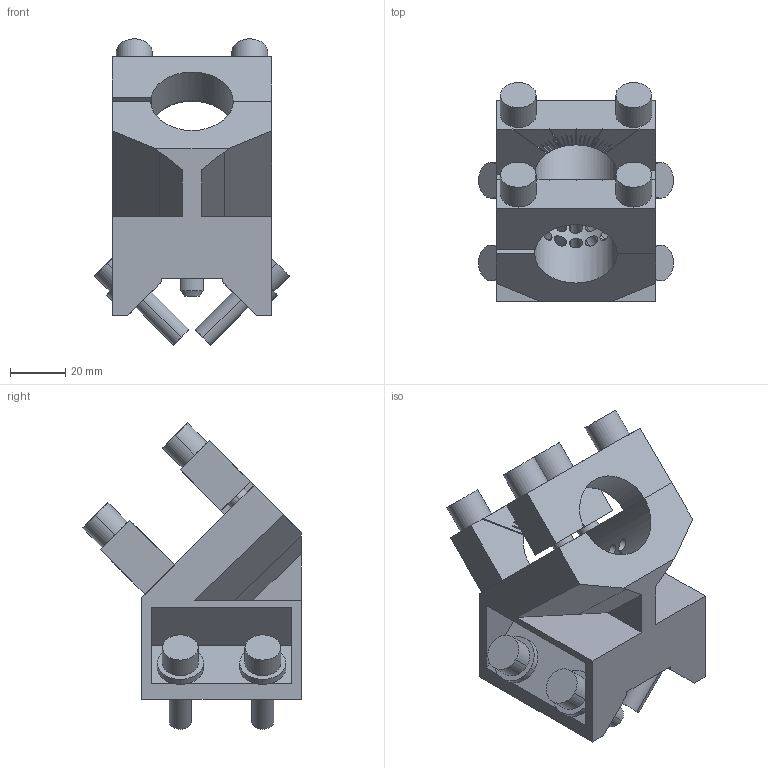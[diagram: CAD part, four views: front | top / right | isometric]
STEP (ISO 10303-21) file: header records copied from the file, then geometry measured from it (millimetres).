
FILE_DESCRIPTION(('STEP AP214'),'1');
FILE_NAME('EGT109_1730745_50RD30_L45.CATPart.stp','2015-09-14T13:08:24',('3D-Tool'),(' '),'Spatial InterOp 3D',' ',' ');
FILE_SCHEMA(('automotive_design'));
Length unit declared in the file: millimetre
Products named in the file (12): EGT109_1730745_50RD30_L45|EGT109_50RD30_L45|Bohrbearbeitung; EGT109_1730745_50RD30_L45|EGT205_SCHELLE_RD30_1|Assemble.75; EGT109_1730745_50RD30_L45|EGT205_SCHELLE_RD30_2|Assemble.76; 1; 2; 3; 4; EGT109_1730745_50RD30_L45|EGT_212_ZENTRIERSTIFT|Pocket.8; 5; 6; 7; 8
Bounding box: 70.85 x 79.5 x 111.37 mm (x, y, z)
Volume: 157508 mm3; surface area: 52682.6 mm2
Topology: 12 solids, 12 shells, 417 faces, 1051 edges, 694 vertices
Faces by surface type: plane 228, cylinder 171, cone 18
Entity records: 17219 total; most frequent: CARTESIAN_POINT 3494, ORIENTED_EDGE 2102, DIRECTION 2101, EDGE_CURVE 1051, AXIS2_PLACEMENT_3D 770, VERTEX_POINT 694, LINE 561, VECTOR 561
